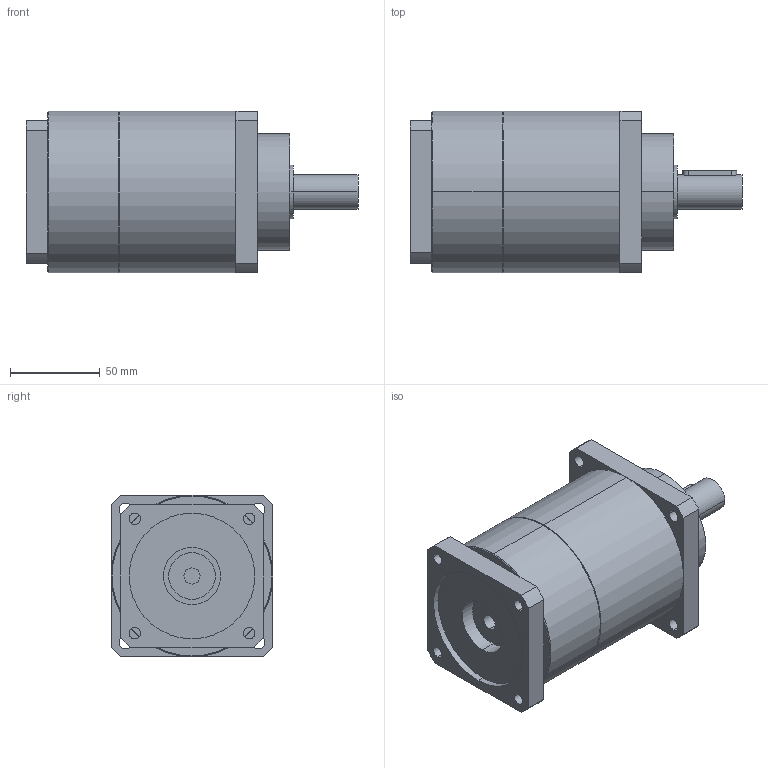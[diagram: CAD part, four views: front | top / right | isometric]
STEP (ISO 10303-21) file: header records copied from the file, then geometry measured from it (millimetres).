
FILE_DESCRIPTION(('CoCreate Modeling STEP Export'),'2;1');
FILE_NAME('GPT90_ig-9-12-16-20-25-28-35-40-50-70-100_19_B5T_9_P12.stp','2015-02-04T11:33:40',(''),(''),'CoCreate Modeling STEP processor for AP214 (Solid Model)','CoCreate Modeling 16.00C 25-Feb-2009 (C) Parametric Technology GmbH','');
FILE_SCHEMA(('AUTOMOTIVE_DESIGN { 1 0 10303 214 1 1 1 1 }'));
Length unit declared in the file: millimetre
Products named in the file (2): GPT90_ig-9-12-16-20-25-28-35-40-50-70-100_19_B5T_9_P12
Assembly tree (1 placements, depth 2):
  GPT90_ig-9-12-16-20-25-28-35-40-50-70-100_19_B5T_9_P12
    GPT90_ig-9-12-16-20-25-28-35-40-50-70-100_19_B5T_9_P12
Bounding box: 185 x 90 x 90 mm (x, y, z)
Volume: 887420.5 mm3; surface area: 65837.8 mm2
Topology: 1 solids, 1 shells, 88 faces, 237 edges, 156 vertices
Faces by surface type: cylinder 46, plane 38, cone 4
Entity records: 2783 total; most frequent: CARTESIAN_POINT 766, ORIENTED_EDGE 474, DIRECTION 338, EDGE_CURVE 237, VERTEX_POINT 156, AXIS2_PLACEMENT_3D 125, EDGE_LOOP 109, VECTOR 88
